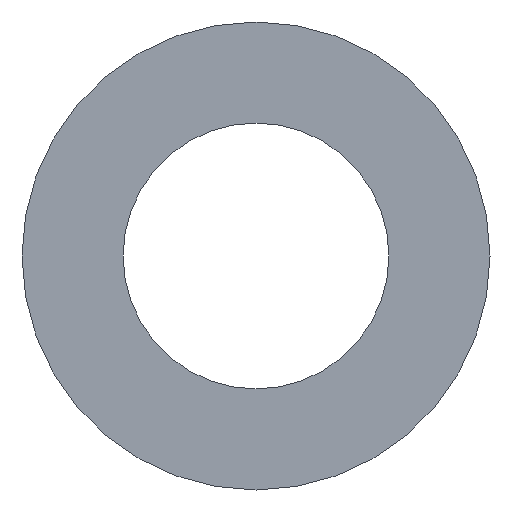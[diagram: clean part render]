
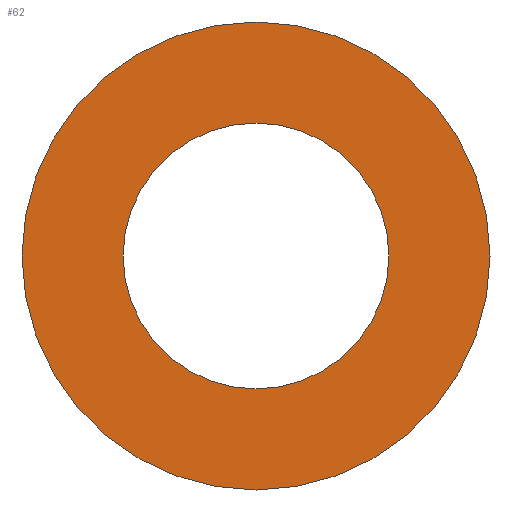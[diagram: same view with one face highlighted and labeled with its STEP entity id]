
A CAD part, front view. The second image highlights one B-rep face of the part: STEP entity #62.
In plain terms, the highlighted planar face has unit normal (0, -1, 0).
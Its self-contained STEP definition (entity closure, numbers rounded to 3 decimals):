
#20=PLANE('',#83);
#26=ORIENTED_EDGE('',*,*,#30,.T.);
#27=ORIENTED_EDGE('',*,*,#32,.F.);
#30=EDGE_CURVE('',#34,#34,#38,.T.);
#32=EDGE_CURVE('',#36,#36,#40,.T.);
#34=VERTEX_POINT('',#106);
#36=VERTEX_POINT('',#111);
#38=CIRCLE('',#78,46.);
#40=CIRCLE('',#81,81.);
#46=EDGE_LOOP('',(#26));
#47=EDGE_LOOP('',(#27));
#54=FACE_BOUND('',#46,.T.);
#55=FACE_BOUND('',#47,.T.);
#62=ADVANCED_FACE('',(#54,#55),#20,.F.);
#78=AXIS2_PLACEMENT_3D('',#105,#89,#90);
#81=AXIS2_PLACEMENT_3D('',#110,#95,#96);
#83=AXIS2_PLACEMENT_3D('',#114,#99,#100);
#89=DIRECTION('',(0.,1.,0.));
#90=DIRECTION('',(1.,0.,0.));
#95=DIRECTION('',(0.,1.,0.));
#96=DIRECTION('',(1.,0.,0.));
#99=DIRECTION('',(0.,1.,0.));
#100=DIRECTION('',(0.,0.,1.));
#105=CARTESIAN_POINT('',(0.,-1.5,0.));
#106=CARTESIAN_POINT('',(46.,-1.5,0.));
#110=CARTESIAN_POINT('',(0.,-1.5,0.));
#111=CARTESIAN_POINT('',(81.,-1.5,0.));
#114=CARTESIAN_POINT('',(0.,-1.5,0.));
